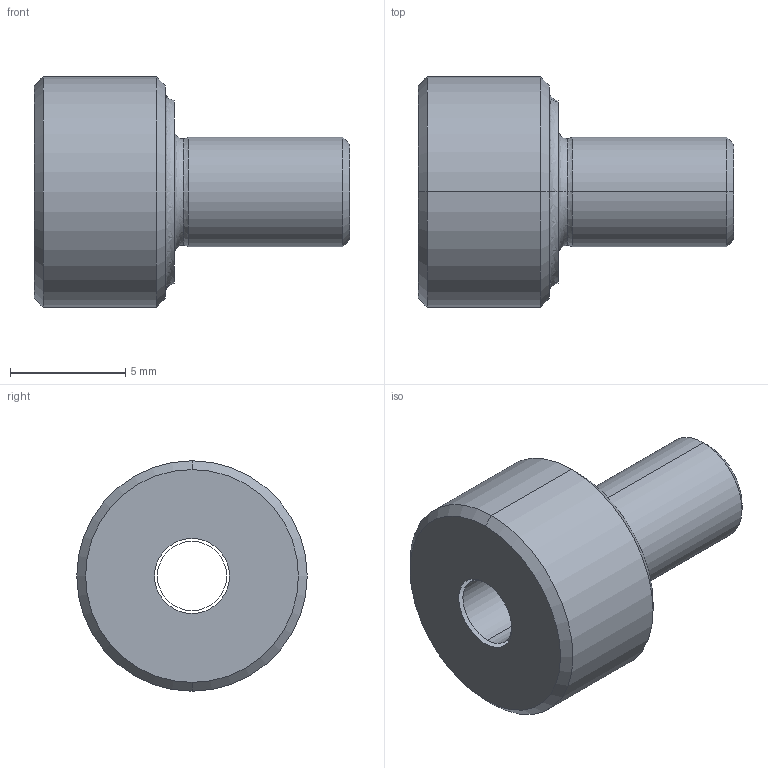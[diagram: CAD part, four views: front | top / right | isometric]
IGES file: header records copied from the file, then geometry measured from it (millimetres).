
Start section: 3D InterOp IGES (v. 2019 1.0.2), Spatial Corp. Copyright (c) 1999-2017.
Global section: file name: B1SSM.igs; native system: Spatial Corp.; preprocessor: 3D InterOp GENERIC/IGES 3.0; author: Noname; organization: Noname; date: 20200930.105758; units: millimetre
Bounding box: 13.68 x 10 x 10 mm (x, y, z)
Surface area: 542.4 mm2 (no closed solid volume)
Topology: 0 solids, 0 shells, 26 faces, 104 edges, 104 vertices
Faces by surface type: revolution 22, extrusion 4
